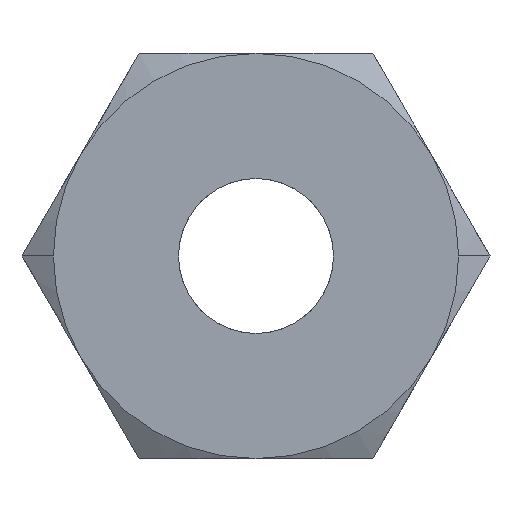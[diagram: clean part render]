
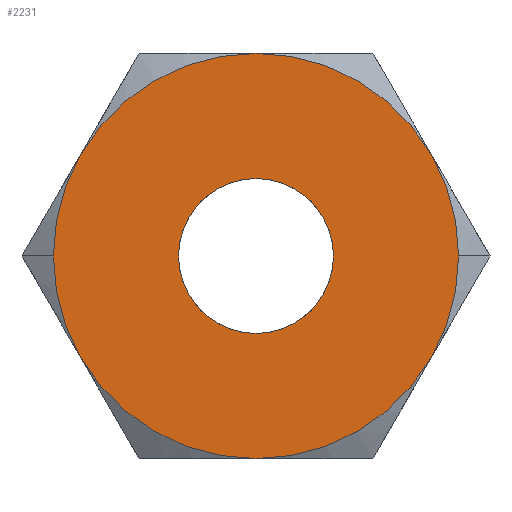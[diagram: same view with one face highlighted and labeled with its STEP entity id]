
A CAD part, left-side view. The second image highlights one B-rep face of the part: STEP entity #2231.
In plain terms, the highlighted planar face has unit normal (-1, 0, 0).
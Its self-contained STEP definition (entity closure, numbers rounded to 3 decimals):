
#755=CARTESIAN_POINT('',(0.0,3.25,0.0));
#756=VERTEX_POINT('',#755);
#765=CARTESIAN_POINT('',(0.0,-3.25,0.));
#766=VERTEX_POINT('',#765);
#767=CARTESIAN_POINT('',(0.0,0.0,0.0));
#768=DIRECTION('',(1.0,0.0,0.0));
#769=DIRECTION('',(0.0,1.0,0.0));
#770=AXIS2_PLACEMENT_3D('',#767,#768,#769);
#771=CIRCLE('',#770,3.25);
#772=EDGE_CURVE('',#766,#756,#771,.T.);
#877=CARTESIAN_POINT('',(0.0,8.5,0.));
#878=VERTEX_POINT('',#877);
#887=CARTESIAN_POINT('',(0.,7.359,4.253));
#888=VERTEX_POINT('',#887);
#889=CARTESIAN_POINT('',(0.0,0.0,0.0));
#890=DIRECTION('',(1.0,0.0,0.0));
#891=DIRECTION('',(0.0,1.0,0.0));
#892=AXIS2_PLACEMENT_3D('',#889,#890,#891);
#893=CIRCLE('',#892,8.5);
#894=EDGE_CURVE('',#878,#888,#893,.T.);
#919=CARTESIAN_POINT('',(0.0,-8.5,0.));
#920=VERTEX_POINT('',#919);
#927=CARTESIAN_POINT('',(0.,-7.359,4.253));
#928=VERTEX_POINT('',#927);
#942=CARTESIAN_POINT('',(0.0,0.0,0.0));
#943=DIRECTION('',(1.0,0.0,0.0));
#944=DIRECTION('',(0.0,1.0,0.0));
#945=AXIS2_PLACEMENT_3D('',#942,#943,#944);
#946=CIRCLE('',#945,8.5);
#947=EDGE_CURVE('',#928,#920,#946,.T.);
#1655=CARTESIAN_POINT('',(0.0,0.0,8.5));
#1656=VERTEX_POINT('',#1655);
#1735=CARTESIAN_POINT('',(0.,7.359,-4.253));
#1736=VERTEX_POINT('',#1735);
#1851=CARTESIAN_POINT('',(0.,0.0,-8.5));
#1852=VERTEX_POINT('',#1851);
#1924=CARTESIAN_POINT('',(0.,-7.359,-4.253));
#1925=VERTEX_POINT('',#1924);
#2032=CARTESIAN_POINT('',(0.0,0.0,0.0));
#2033=DIRECTION('',(1.0,0.0,0.0));
#2034=DIRECTION('',(0.0,1.0,0.0));
#2035=AXIS2_PLACEMENT_3D('',#2032,#2033,#2034);
#2036=CIRCLE('',#2035,8.5);
#2037=EDGE_CURVE('',#1925,#1852,#2036,.T.);
#2049=CARTESIAN_POINT('',(0.0,0.0,0.0));
#2050=DIRECTION('',(1.0,0.0,0.0));
#2051=DIRECTION('',(0.0,1.0,0.0));
#2052=AXIS2_PLACEMENT_3D('',#2049,#2050,#2051);
#2053=CIRCLE('',#2052,8.5);
#2054=EDGE_CURVE('',#920,#1925,#2053,.T.);
#2066=CARTESIAN_POINT('',(0.0,0.0,0.0));
#2067=DIRECTION('',(1.0,0.0,0.0));
#2068=DIRECTION('',(0.0,1.0,0.0));
#2069=AXIS2_PLACEMENT_3D('',#2066,#2067,#2068);
#2070=CIRCLE('',#2069,8.5);
#2071=EDGE_CURVE('',#1656,#928,#2070,.T.);
#2084=CARTESIAN_POINT('',(0.0,0.0,0.0));
#2085=DIRECTION('',(1.0,0.0,0.0));
#2086=DIRECTION('',(0.0,1.0,0.0));
#2087=AXIS2_PLACEMENT_3D('',#2084,#2085,#2086);
#2088=CIRCLE('',#2087,8.5);
#2089=EDGE_CURVE('',#888,#1656,#2088,.T.);
#2101=CARTESIAN_POINT('',(0.0,0.0,0.0));
#2102=DIRECTION('',(1.0,0.0,0.0));
#2103=DIRECTION('',(0.0,1.0,0.0));
#2104=AXIS2_PLACEMENT_3D('',#2101,#2102,#2103);
#2105=CIRCLE('',#2104,8.5);
#2106=EDGE_CURVE('',#1736,#878,#2105,.T.);
#2118=CARTESIAN_POINT('',(0.0,0.0,0.0));
#2119=DIRECTION('',(1.0,0.0,0.0));
#2120=DIRECTION('',(0.0,1.0,0.0));
#2121=AXIS2_PLACEMENT_3D('',#2118,#2119,#2120);
#2122=CIRCLE('',#2121,8.5);
#2123=EDGE_CURVE('',#1852,#1736,#2122,.T.);
#2202=CARTESIAN_POINT('',(0.0,0.0,0.0));
#2203=DIRECTION('',(1.0,0.0,0.0));
#2204=DIRECTION('',(0.0,1.0,0.0));
#2205=AXIS2_PLACEMENT_3D('',#2202,#2203,#2204);
#2206=CIRCLE('',#2205,3.25);
#2207=EDGE_CURVE('',#756,#766,#2206,.T.);
#2212=CARTESIAN_POINT('',(0.0,5.875,0.0));
#2213=DIRECTION('',(-1.0,0.0,0.0));
#2214=DIRECTION('',(0.0,0.0,1.0));
#2215=AXIS2_PLACEMENT_3D('',#2212,#2213,#2214);
#2216=PLANE('',#2215);
#2217=ORIENTED_EDGE('',*,*,#2106,.F.);
#2218=ORIENTED_EDGE('',*,*,#2123,.F.);
#2219=ORIENTED_EDGE('',*,*,#2037,.F.);
#2220=ORIENTED_EDGE('',*,*,#2054,.F.);
#2221=ORIENTED_EDGE('',*,*,#947,.F.);
#2222=ORIENTED_EDGE('',*,*,#2071,.F.);
#2223=ORIENTED_EDGE('',*,*,#2089,.F.);
#2224=ORIENTED_EDGE('',*,*,#894,.F.);
#2225=EDGE_LOOP('',(#2217,#2218,#2219,#2220,#2221,#2222,#2223,#2224));
#2226=FACE_OUTER_BOUND('',#2225,.T.);
#2227=ORIENTED_EDGE('',*,*,#2207,.T.);
#2228=ORIENTED_EDGE('',*,*,#772,.T.);
#2229=EDGE_LOOP('',(#2227,#2228));
#2230=FACE_BOUND('',#2229,.T.);
#2231=ADVANCED_FACE('',(#2226,#2230),#2216,.T.);
